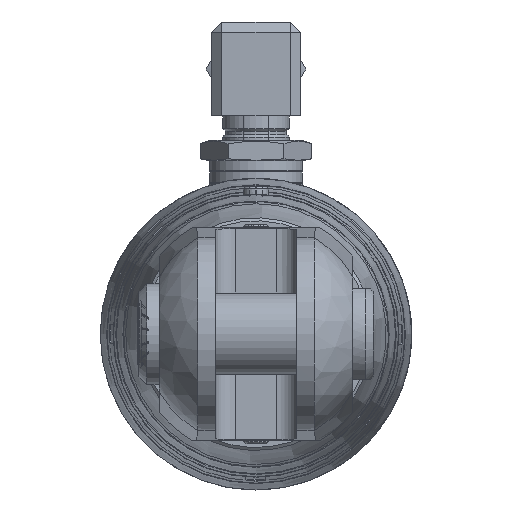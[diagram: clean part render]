
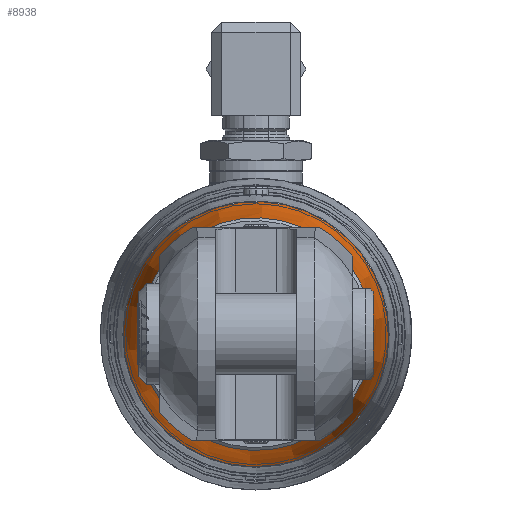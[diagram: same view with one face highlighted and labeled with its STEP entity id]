
A CAD part, left-side view. The second image highlights one B-rep face of the part: STEP entity #8938.
In plain terms, the highlighted conical face has half-angle 10 degrees and reference radius 24.512 mm.
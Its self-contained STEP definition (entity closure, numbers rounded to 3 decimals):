
#107=CONICAL_SURFACE('',#9766,24.512,0.175);
#956=LINE('',#15727,#1531);
#1531=VECTOR('',#11727,24.512);
#2639=FACE_OUTER_BOUND('',#3172,.T.);
#3172=EDGE_LOOP('',(#7641,#7642,#7643,#7644,#7645,#7646));
#3647=CIRCLE('',#9764,26.101);
#3648=CIRCLE('',#9765,26.101);
#3649=CIRCLE('',#9767,22.924);
#3650=CIRCLE('',#9768,22.924);
#4409=VERTEX_POINT('',#15717);
#4410=VERTEX_POINT('',#15718);
#4411=VERTEX_POINT('',#15723);
#4412=VERTEX_POINT('',#15724);
#5534=EDGE_CURVE('',#4409,#4410,#3647,.T.);
#5535=EDGE_CURVE('',#4410,#4409,#3648,.T.);
#5537=EDGE_CURVE('',#4411,#4412,#3649,.T.);
#5538=EDGE_CURVE('',#4412,#4411,#3650,.T.);
#5539=EDGE_CURVE('',#4412,#4410,#956,.T.);
#7641=ORIENTED_EDGE('',*,*,#5537,.F.);
#7642=ORIENTED_EDGE('',*,*,#5538,.F.);
#7643=ORIENTED_EDGE('',*,*,#5539,.T.);
#7644=ORIENTED_EDGE('',*,*,#5534,.F.);
#7645=ORIENTED_EDGE('',*,*,#5535,.F.);
#7646=ORIENTED_EDGE('',*,*,#5539,.F.);
#8938=ADVANCED_FACE('',(#2639),#107,.T.);
#9764=AXIS2_PLACEMENT_3D('',#15719,#11716,#11717);
#9765=AXIS2_PLACEMENT_3D('',#15720,#11718,#11719);
#9766=AXIS2_PLACEMENT_3D('',#15722,#11721,#11722);
#9767=AXIS2_PLACEMENT_3D('',#15725,#11723,#11724);
#9768=AXIS2_PLACEMENT_3D('',#15726,#11725,#11726);
#11716=DIRECTION('center_axis',(1.,0.,0.));
#11717=DIRECTION('ref_axis',(0.,0.605,0.796));
#11718=DIRECTION('center_axis',(1.,0.,0.));
#11719=DIRECTION('ref_axis',(0.,0.605,0.796));
#11721=DIRECTION('center_axis',(1.,0.,0.));
#11722=DIRECTION('ref_axis',(0.,-0.605,-0.796));
#11723=DIRECTION('center_axis',(-1.,0.,0.));
#11724=DIRECTION('ref_axis',(0.,0.605,0.796));
#11725=DIRECTION('center_axis',(-1.,0.,0.));
#11726=DIRECTION('ref_axis',(0.,0.605,0.796));
#11727=DIRECTION('',(0.985,0.105,0.138));
#15717=CARTESIAN_POINT('',(-932.242,-15.8,-20.775));
#15718=CARTESIAN_POINT('',(-932.242,15.8,20.775));
#15719=CARTESIAN_POINT('Origin',(-932.242,0.,
0.));
#15720=CARTESIAN_POINT('Origin',(-932.242,0.,
0.));
#15722=CARTESIAN_POINT('Origin',(-941.25,0.,0.));
#15723=CARTESIAN_POINT('',(-950.258,-13.877,-18.247));
#15724=CARTESIAN_POINT('',(-950.258,13.877,18.247));
#15725=CARTESIAN_POINT('Origin',(-950.258,0.,
0.));
#15726=CARTESIAN_POINT('Origin',(-950.258,0.,
0.));
#15727=CARTESIAN_POINT('',(-941.25,14.839,19.511));
